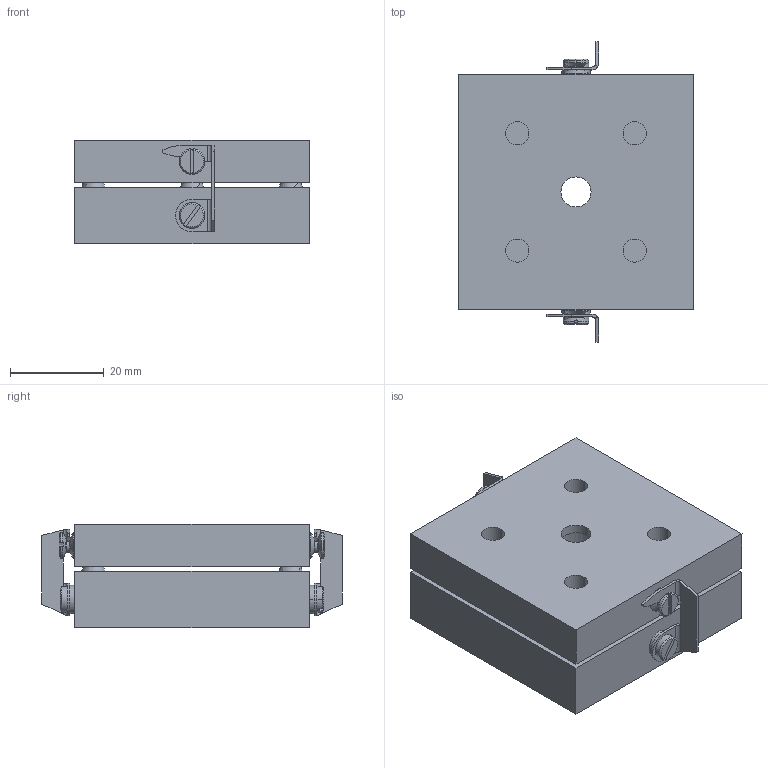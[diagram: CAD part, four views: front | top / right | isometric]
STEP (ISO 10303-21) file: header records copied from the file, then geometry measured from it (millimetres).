
FILE_DESCRIPTION (( 'STEP AP203' ), '1' );
FILE_NAME ('6KB31.STEP', '2013-04-11T12:06:16', ( 'ramunas' ), ( '' ), 'SwSTEP 2.0', 'SolidWorks 2003240', '' );
FILE_SCHEMA (( 'CONFIG_CONTROL_DESIGN' ));
Length unit declared in the file: millimetre
Products named in the file (1): 6KB31
Bounding box: 50 x 64 x 22 mm (x, y, z)
Volume: 46861.7 mm3; surface area: 16637.3 mm2
Topology: 1 solids, 2 shells, 167 faces, 433 edges, 280 vertices
Faces by surface type: plane 74, cylinder 65, cone 18, bspline 10
Entity records: 5726 total; most frequent: CARTESIAN_POINT 1477, DIRECTION 885, ORIENTED_EDGE 866, EDGE_CURVE 433, AXIS2_PLACEMENT_3D 338, VERTEX_POINT 280, VECTOR 209, LINE 209
